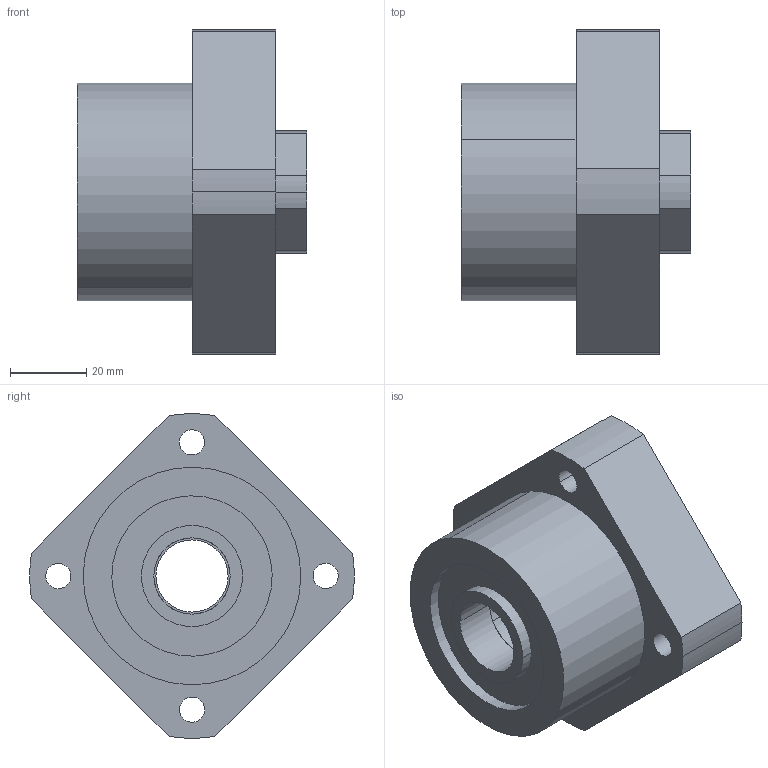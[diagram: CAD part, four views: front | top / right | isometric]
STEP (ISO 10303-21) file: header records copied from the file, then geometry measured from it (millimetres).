
FILE_DESCRIPTION(('CATIA V5 STEP Exchange'),'2;1');
FILE_NAME('D:\서포트 완성도면\FK\FK20.stp','2014-02-20T10:52:35+00:00',('none'),('none'),'CATIA Version 5 Release 18 GA (IN-10)','CATIA V5 STEP AP203','none');
FILE_SCHEMA(('CONFIG_CONTROL_DESIGN'));
Length unit declared in the file: millimetre
Products named in the file (1): FK20
Assembly tree (4 placements, depth 2):
  FK20
    #56
    #1353  x2
    #1540
Bounding box: 60 x 85 x 84.9 mm (x, y, z)
Volume: 151525.8 mm3; surface area: 32094.9 mm2
Topology: 4 solids, 4 shells, 75 faces, 174 edges, 116 vertices
Faces by surface type: cylinder 50, plane 25
Entity records: 1937 total; most frequent: ORIENTED_EDGE 324, CARTESIAN_POINT 318, DIRECTION 258, EDGE_CURVE 162, AXIS2_PLACEMENT_3D 140, VERTEX_POINT 108, CIRCLE 92, EDGE_LOOP 92
